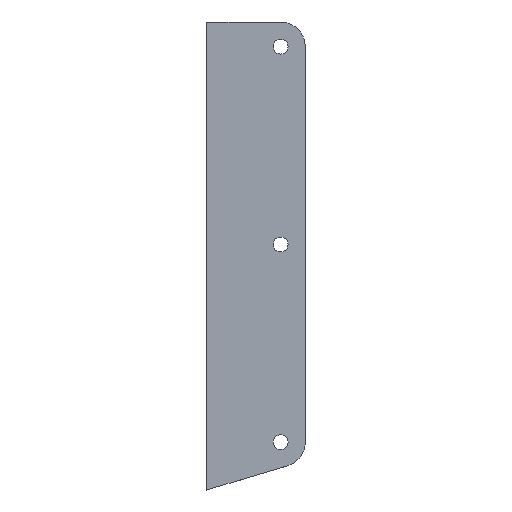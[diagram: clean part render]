
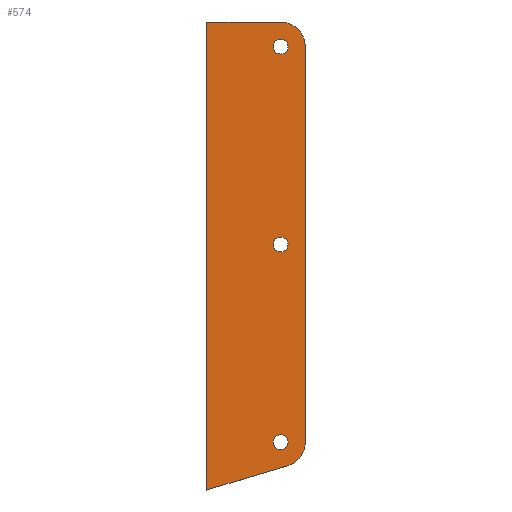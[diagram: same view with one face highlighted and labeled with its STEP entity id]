
A CAD part, top view. The second image highlights one B-rep face of the part: STEP entity #574.
In plain terms, the highlighted planar face has unit normal (0, 0, 1).
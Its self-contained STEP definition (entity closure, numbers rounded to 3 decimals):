
#273=VECTOR('',#459,1.);
#275=VECTOR('',#463,1.);
#276=VECTOR('',#464,1.);
#277=VECTOR('',#465,1.);
#287=LINE('',#518,#273);
#289=LINE('',#522,#275);
#290=LINE('',#524,#276);
#291=LINE('',#526,#277);
#312=ORIENTED_EDGE('',*,*,#382,.T.);
#313=ORIENTED_EDGE('',*,*,#385,.T.);
#314=ORIENTED_EDGE('',*,*,#386,.T.);
#315=ORIENTED_EDGE('',*,*,#387,.T.);
#316=ORIENTED_EDGE('',*,*,#388,.T.);
#317=ORIENTED_EDGE('',*,*,#383,.T.);
#318=ORIENTED_EDGE('',*,*,#389,.F.);
#319=ORIENTED_EDGE('',*,*,#390,.F.);
#320=ORIENTED_EDGE('',*,*,#391,.F.);
#348=CIRCLE('',#551,15.);
#349=CIRCLE('',#554,15.);
#350=CIRCLE('',#555,4.5);
#351=CIRCLE('',#556,4.5);
#352=CIRCLE('',#557,4.5);
#362=VERTEX_POINT('',#511);
#363=VERTEX_POINT('',#513);
#364=VERTEX_POINT('',#517);
#365=VERTEX_POINT('',#521);
#366=VERTEX_POINT('',#523);
#367=VERTEX_POINT('',#525);
#368=VERTEX_POINT('',#528);
#369=VERTEX_POINT('',#530);
#370=VERTEX_POINT('',#532);
#382=EDGE_CURVE('',#362,#363,#348,.T.);
#383=EDGE_CURVE('',#364,#362,#287,.T.);
#385=EDGE_CURVE('',#363,#365,#289,.T.);
#386=EDGE_CURVE('',#365,#366,#290,.T.);
#387=EDGE_CURVE('',#366,#367,#291,.T.);
#388=EDGE_CURVE('',#367,#364,#349,.T.);
#389=EDGE_CURVE('',#368,#368,#350,.T.);
#390=EDGE_CURVE('',#369,#369,#351,.T.);
#391=EDGE_CURVE('',#370,#370,#352,.T.);
#401=EDGE_LOOP('',(#312,#313,#314,#315,#316,#317));
#402=EDGE_LOOP('',(#318));
#403=EDGE_LOOP('',(#319));
#404=EDGE_LOOP('',(#320));
#421=FACE_BOUND('',#401,.T.);
#422=FACE_BOUND('',#402,.T.);
#423=FACE_BOUND('',#403,.T.);
#424=FACE_BOUND('',#404,.T.);
#455=DIRECTION('',(0.,0.,1.));
#456=DIRECTION('',(15.,0.,0.));
#459=DIRECTION('',(0.,240.916,0.));
#461=DIRECTION('',(0.,0.,1.));
#462=DIRECTION('',(0.,-1.,0.));
#463=DIRECTION('',(-45.,0.,0.));
#464=DIRECTION('',(0.,-285.023,0.));
#465=DIRECTION('',(49.296,14.735,0.));
#466=DIRECTION('',(0.,0.,1.));
#467=DIRECTION('',(4.296,-14.372,0.));
#468=DIRECTION('',(0.,0.,1.));
#469=DIRECTION('',(4.5,0.,0.));
#470=DIRECTION('',(0.,0.,1.));
#471=DIRECTION('',(0.,-4.5,0.));
#472=DIRECTION('',(0.,0.,1.));
#473=DIRECTION('',(0.,-4.5,0.));
#511=CARTESIAN_POINT('',(5029.504,13876.36,8.));
#513=CARTESIAN_POINT('',(5014.504,13891.36,8.));
#515=CARTESIAN_POINT('',(5014.504,13876.36,8.));
#517=CARTESIAN_POINT('',(5029.504,13635.443,8.));
#518=CARTESIAN_POINT('',(5029.504,13635.443,8.));
#520=CARTESIAN_POINT('',(0.,0.,8.));
#521=CARTESIAN_POINT('',(4969.504,13891.36,8.));
#522=CARTESIAN_POINT('',(5014.504,13891.36,8.));
#523=CARTESIAN_POINT('',(4969.504,13606.337,8.));
#524=CARTESIAN_POINT('',(4969.504,13891.36,8.));
#525=CARTESIAN_POINT('',(5018.799,13621.072,8.));
#526=CARTESIAN_POINT('',(4969.504,13606.337,8.));
#527=CARTESIAN_POINT('',(5014.504,13635.443,8.));
#528=CARTESIAN_POINT('',(5019.004,13755.902,8.));
#529=CARTESIAN_POINT('',(5014.504,13755.902,8.));
#530=CARTESIAN_POINT('',(5014.504,13630.943,8.));
#531=CARTESIAN_POINT('',(5014.504,13635.443,8.));
#532=CARTESIAN_POINT('',(5014.504,13871.86,8.));
#533=CARTESIAN_POINT('',(5014.504,13876.36,8.));
#551=AXIS2_PLACEMENT_3D('',#515,#455,#456);
#553=AXIS2_PLACEMENT_3D('',#520,#461,#462);
#554=AXIS2_PLACEMENT_3D('',#527,#466,#467);
#555=AXIS2_PLACEMENT_3D('',#529,#468,#469);
#556=AXIS2_PLACEMENT_3D('',#531,#470,#471);
#557=AXIS2_PLACEMENT_3D('',#533,#472,#473);
#567=PLANE('',#553);
#574=ADVANCED_FACE('',(#421,#422,#423,#424),#567,.T.);
